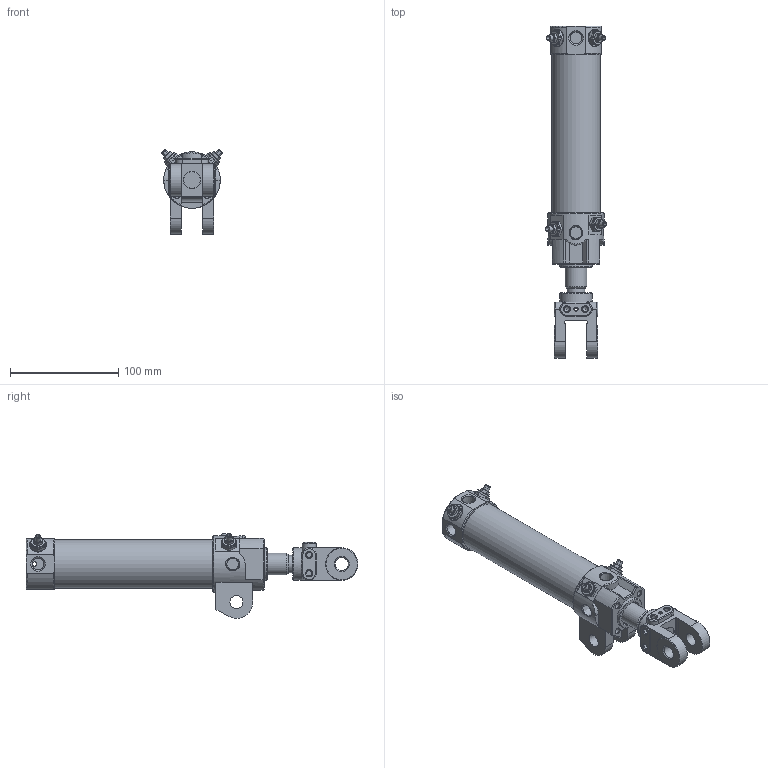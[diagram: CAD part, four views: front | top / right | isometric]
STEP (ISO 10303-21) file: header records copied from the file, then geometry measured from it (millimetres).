
FILE_DESCRIPTION((''),'2;1');
FILE_NAME('I:\3D電子目錄\氣缸\DCK\DCK\DCK-1B-40x100-Y.stp','2008-02-26T11:18:20',('Administrator'),(''),'Autodesk Inventor 11','Autodesk Inventor 11','');
FILE_SCHEMA(('AUTOMOTIVE_DESIGN { 1 0 10303 214 1 1 1 1 }'));
Length unit declared in the file: millimetre
Products named in the file (6): DCK-1B-40-Y; 緩衝針; 緩衝針-1; 緩衝針-201; 緩衝針-3
Assembly tree (8 placements, depth 3):
  DCK-1B-40-Y
    DCK-1B-40-Y
    緩衝針  x4
      緩衝針-1
      緩衝針-201
      緩衝針-3
Bounding box: 56.06 x 306 x 78.02 mm (x, y, z)
Volume: 237145.8 mm3; surface area: 105340.4 mm2
Topology: 15 solids, 15 shells, 729 faces, 1682 edges, 1040 vertices
Faces by surface type: plane 242, cylinder 217, cone 146, bspline 82, torus 40, sphere 2
Full cylindrical faces by diameter (mm): 2 x1, 3 x3, 3.8 x2, 4 x6, 4.6 x4, 5 x8, 5.1 x4, 5.2 x12, 5.5 x4, 7 x1, 7.25 x1, 7.9 x4, 8 x2, 8.3 x1, 10 x2, 12 x4, 12.8 x4, 16 x3, 20 x1, 21 x1, 22 x3, 23 x1, 24.7 x1, 26 x1, 28 x1, 29 x1, 30 x4, 33 x1, 40 x1, 42 x2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
Entity records: 25532 total; most frequent: CARTESIAN_POINT 15416, DIRECTION 1975, ORIENTED_EDGE 1956, EDGE_CURVE 978, AXIS2_PLACEMENT_3D 841, EDGE_LOOP 681, VERTEX_POINT 677, FACE_OUTER_BOUND 478
